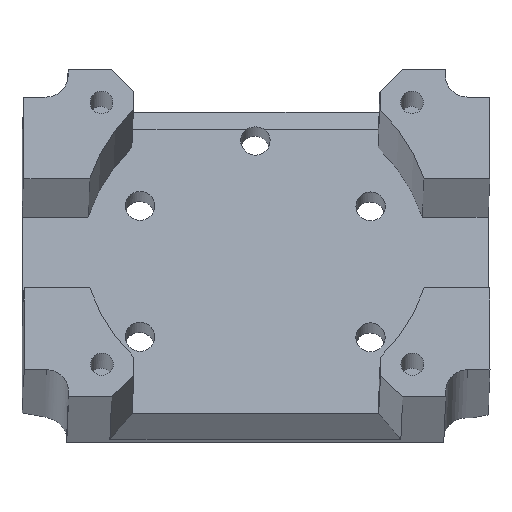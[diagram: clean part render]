
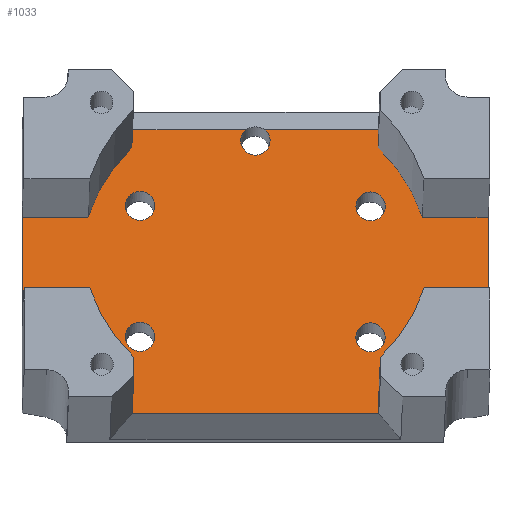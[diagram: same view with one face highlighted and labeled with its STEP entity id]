
A CAD part, front view. The second image highlights one B-rep face of the part: STEP entity #1033.
In plain terms, the highlighted planar face has unit normal (0.008, -0.983, 0.181).
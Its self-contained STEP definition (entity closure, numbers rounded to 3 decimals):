
#32=FACE_BOUND('',#148,.T.);
#33=FACE_BOUND('',#149,.T.);
#34=FACE_BOUND('',#150,.T.);
#35=FACE_BOUND('',#151,.T.);
#45=CIRCLE('',#1106,31.776);
#46=CIRCLE('',#1107,31.776);
#47=CIRCLE('',#1108,2.65);
#48=CIRCLE('',#1109,2.65);
#49=CIRCLE('',#1110,31.776);
#50=CIRCLE('',#1111,31.776);
#51=CIRCLE('',#1112,2.65);
#52=CIRCLE('',#1113,2.65);
#53=CIRCLE('',#1114,2.65);
#54=CIRCLE('',#1115,2.65);
#90=FACE_OUTER_BOUND('',#147,.T.);
#147=EDGE_LOOP('',(#704,#705,#706,#707,#708,#709,#710,#711,#712,#713,#714,
#715,#716,#717,#718,#719,#720,#721,#722));
#148=EDGE_LOOP('',(#723));
#149=EDGE_LOOP('',(#724));
#150=EDGE_LOOP('',(#725));
#151=EDGE_LOOP('',(#726));
#217=LINE('',#1519,#327);
#225=LINE('',#1539,#335);
#229=LINE('',#1546,#339);
#230=LINE('',#1549,#340);
#231=LINE('',#1553,#341);
#232=LINE('',#1555,#342);
#233=LINE('',#1557,#343);
#234=LINE('',#1560,#344);
#235=LINE('',#1565,#345);
#236=LINE('',#1569,#346);
#237=LINE('',#1571,#347);
#238=LINE('',#1573,#348);
#239=LINE('',#1576,#349);
#327=VECTOR('',#1207,10.);
#335=VECTOR('',#1221,10.);
#339=VECTOR('',#1225,10.);
#340=VECTOR('',#1228,10.);
#341=VECTOR('',#1231,10.);
#342=VECTOR('',#1232,10.);
#343=VECTOR('',#1233,10.);
#344=VECTOR('',#1236,10.);
#345=VECTOR('',#1241,10.);
#346=VECTOR('',#1244,10.);
#347=VECTOR('',#1245,10.);
#348=VECTOR('',#1246,10.);
#349=VECTOR('',#1249,10.);
#434=VERTEX_POINT('',#1512);
#437=VERTEX_POINT('',#1517);
#444=VERTEX_POINT('',#1535);
#445=VERTEX_POINT('',#1536);
#446=VERTEX_POINT('',#1538);
#449=VERTEX_POINT('',#1544);
#450=VERTEX_POINT('',#1548);
#451=VERTEX_POINT('',#1550);
#452=VERTEX_POINT('',#1552);
#453=VERTEX_POINT('',#1554);
#454=VERTEX_POINT('',#1556);
#455=VERTEX_POINT('',#1558);
#456=VERTEX_POINT('',#1561);
#457=VERTEX_POINT('',#1564);
#458=VERTEX_POINT('',#1566);
#459=VERTEX_POINT('',#1568);
#460=VERTEX_POINT('',#1570);
#461=VERTEX_POINT('',#1572);
#462=VERTEX_POINT('',#1574);
#463=VERTEX_POINT('',#1577);
#464=VERTEX_POINT('',#1579);
#465=VERTEX_POINT('',#1581);
#466=VERTEX_POINT('',#1583);
#537=EDGE_CURVE('',#437,#434,#217,.T.);
#546=EDGE_CURVE('',#445,#446,#225,.T.);
#550=EDGE_CURVE('',#449,#444,#229,.T.);
#551=EDGE_CURVE('',#437,#450,#230,.T.);
#552=EDGE_CURVE('',#450,#451,#45,.T.);
#553=EDGE_CURVE('',#451,#452,#231,.T.);
#554=EDGE_CURVE('',#452,#453,#232,.T.);
#555=EDGE_CURVE('',#453,#454,#233,.T.);
#556=EDGE_CURVE('',#454,#455,#46,.T.);
#557=EDGE_CURVE('',#455,#446,#234,.T.);
#558=EDGE_CURVE('',#445,#456,#47,.T.);
#559=EDGE_CURVE('',#456,#444,#48,.T.);
#560=EDGE_CURVE('',#449,#457,#235,.T.);
#561=EDGE_CURVE('',#457,#458,#49,.T.);
#562=EDGE_CURVE('',#458,#459,#236,.T.);
#563=EDGE_CURVE('',#459,#460,#237,.T.);
#564=EDGE_CURVE('',#460,#461,#238,.T.);
#565=EDGE_CURVE('',#461,#462,#50,.T.);
#566=EDGE_CURVE('',#462,#434,#239,.T.);
#567=EDGE_CURVE('',#463,#463,#51,.T.);
#568=EDGE_CURVE('',#464,#464,#52,.T.);
#569=EDGE_CURVE('',#465,#465,#53,.T.);
#570=EDGE_CURVE('',#466,#466,#54,.T.);
#704=ORIENTED_EDGE('',*,*,#537,.F.);
#705=ORIENTED_EDGE('',*,*,#551,.T.);
#706=ORIENTED_EDGE('',*,*,#552,.T.);
#707=ORIENTED_EDGE('',*,*,#553,.T.);
#708=ORIENTED_EDGE('',*,*,#554,.T.);
#709=ORIENTED_EDGE('',*,*,#555,.T.);
#710=ORIENTED_EDGE('',*,*,#556,.T.);
#711=ORIENTED_EDGE('',*,*,#557,.T.);
#712=ORIENTED_EDGE('',*,*,#546,.F.);
#713=ORIENTED_EDGE('',*,*,#558,.T.);
#714=ORIENTED_EDGE('',*,*,#559,.T.);
#715=ORIENTED_EDGE('',*,*,#550,.F.);
#716=ORIENTED_EDGE('',*,*,#560,.T.);
#717=ORIENTED_EDGE('',*,*,#561,.T.);
#718=ORIENTED_EDGE('',*,*,#562,.T.);
#719=ORIENTED_EDGE('',*,*,#563,.T.);
#720=ORIENTED_EDGE('',*,*,#564,.T.);
#721=ORIENTED_EDGE('',*,*,#565,.T.);
#722=ORIENTED_EDGE('',*,*,#566,.T.);
#723=ORIENTED_EDGE('',*,*,#567,.T.);
#724=ORIENTED_EDGE('',*,*,#568,.T.);
#725=ORIENTED_EDGE('',*,*,#569,.T.);
#726=ORIENTED_EDGE('',*,*,#570,.T.);
#993=PLANE('',#1105);
#1033=ADVANCED_FACE('',(#90,#32,#33,#34,#35),#993,.T.);
#1105=AXIS2_PLACEMENT_3D('',#1547,#1226,#1227);
#1106=AXIS2_PLACEMENT_3D('',#1551,#1229,#1230);
#1107=AXIS2_PLACEMENT_3D('',#1559,#1234,#1235);
#1108=AXIS2_PLACEMENT_3D('',#1562,#1237,#1238);
#1109=AXIS2_PLACEMENT_3D('',#1563,#1239,#1240);
#1110=AXIS2_PLACEMENT_3D('',#1567,#1242,#1243);
#1111=AXIS2_PLACEMENT_3D('',#1575,#1247,#1248);
#1112=AXIS2_PLACEMENT_3D('',#1578,#1250,#1251);
#1113=AXIS2_PLACEMENT_3D('',#1580,#1252,#1253);
#1114=AXIS2_PLACEMENT_3D('',#1582,#1254,#1255);
#1115=AXIS2_PLACEMENT_3D('',#1584,#1256,#1257);
#1207=DIRECTION('',(-1.,-0.008,0.));
#1221=DIRECTION('',(1.,0.008,0.));
#1225=DIRECTION('',(1.,0.008,0.));
#1226=DIRECTION('center_axis',(0.008,-0.983,0.181));
#1227=DIRECTION('ref_axis',(1.,0.008,0.));
#1228=DIRECTION('',(-0.001,0.181,0.983));
#1229=DIRECTION('center_axis',(0.008,-0.983,0.181));
#1230=DIRECTION('ref_axis',(1.,0.008,0.));
#1231=DIRECTION('',(1.,0.008,0.));
#1232=DIRECTION('',(-0.001,0.181,0.983));
#1233=DIRECTION('',(-1.,-0.008,0.));
#1234=DIRECTION('center_axis',(0.008,-0.983,0.181));
#1235=DIRECTION('ref_axis',(1.,0.008,0.));
#1236=DIRECTION('',(-0.001,0.181,0.983));
#1237=DIRECTION('center_axis',(-0.008,0.983,-0.181));
#1238=DIRECTION('ref_axis',(1.,0.008,0.));
#1239=DIRECTION('center_axis',(-0.008,0.983,-0.181));
#1240=DIRECTION('ref_axis',(1.,0.008,0.));
#1241=DIRECTION('',(0.001,-0.181,-0.983));
#1242=DIRECTION('center_axis',(0.008,-0.983,0.181));
#1243=DIRECTION('ref_axis',(1.,0.008,0.));
#1244=DIRECTION('',(-1.,-0.008,0.));
#1245=DIRECTION('',(0.001,-0.181,-0.983));
#1246=DIRECTION('',(1.,0.008,0.));
#1247=DIRECTION('center_axis',(0.008,-0.983,0.181));
#1248=DIRECTION('ref_axis',(1.,0.008,0.));
#1249=DIRECTION('',(0.001,-0.181,-0.983));
#1250=DIRECTION('center_axis',(-0.008,0.983,-0.181));
#1251=DIRECTION('ref_axis',(1.,0.008,0.));
#1252=DIRECTION('center_axis',(-0.008,0.983,-0.181));
#1253=DIRECTION('ref_axis',(1.,0.008,0.));
#1254=DIRECTION('center_axis',(-0.008,0.983,-0.181));
#1255=DIRECTION('ref_axis',(1.,0.008,0.));
#1256=DIRECTION('center_axis',(-0.008,0.983,-0.181));
#1257=DIRECTION('ref_axis',(1.,0.008,0.));
#1512=CARTESIAN_POINT('',(7.252,-296.976,453.478));
#1517=CARTESIAN_POINT('',(51.726,-296.631,453.478));
#1519=CARTESIAN_POINT('',(12.49,-296.935,453.478));
#1535=CARTESIAN_POINT('',(27.732,-287.38,504.615));
#1536=CARTESIAN_POINT('',(31.209,-287.353,504.615));
#1538=CARTESIAN_POINT('',(51.653,-287.194,504.615));
#1539=CARTESIAN_POINT('',(46.415,-287.235,504.615));
#1544=CARTESIAN_POINT('',(7.179,-287.539,504.615));
#1546=CARTESIAN_POINT('',(46.415,-287.235,504.615));
#1547=CARTESIAN_POINT('Origin',(29.452,-292.085,479.047));
#1548=CARTESIAN_POINT('',(51.721,-296.032,456.725));
#1549=CARTESIAN_POINT('',(51.705,-293.972,467.886));
#1550=CARTESIAN_POINT('',(59.627,-293.666,469.213));
#1551=CARTESIAN_POINT('Origin',(29.452,-292.085,479.047));
#1552=CARTESIAN_POINT('',(71.465,-293.574,469.213));
#1553=CARTESIAN_POINT('',(50.466,-293.737,469.213));
#1554=CARTESIAN_POINT('',(71.437,-289.944,488.881));
#1555=CARTESIAN_POINT('',(71.486,-296.296,454.462));
#1556=CARTESIAN_POINT('',(59.599,-290.036,488.881));
#1557=CARTESIAN_POINT('',(44.519,-290.153,488.881));
#1558=CARTESIAN_POINT('',(51.657,-287.793,501.368));
#1559=CARTESIAN_POINT('Origin',(29.452,-292.085,479.047));
#1560=CARTESIAN_POINT('',(51.668,-289.19,493.798));
#1561=CARTESIAN_POINT('',(26.823,-287.75,502.648));
#1562=CARTESIAN_POINT('Origin',(29.473,-287.729,502.648));
#1563=CARTESIAN_POINT('Origin',(29.473,-287.729,502.648));
#1564=CARTESIAN_POINT('',(7.183,-288.138,501.368));
#1565=CARTESIAN_POINT('',(7.199,-290.198,490.207));
#1566=CARTESIAN_POINT('',(-0.723,-290.504,488.881));
#1567=CARTESIAN_POINT('Origin',(29.452,-292.085,479.047));
#1568=CARTESIAN_POINT('',(-12.56,-290.596,488.881));
#1569=CARTESIAN_POINT('',(8.439,-290.433,488.881));
#1570=CARTESIAN_POINT('',(-12.532,-294.226,469.213));
#1571=CARTESIAN_POINT('',(-12.511,-296.948,454.462));
#1572=CARTESIAN_POINT('',(-0.694,-294.134,469.213));
#1573=CARTESIAN_POINT('',(14.386,-294.017,469.213));
#1574=CARTESIAN_POINT('',(7.247,-296.377,456.725));
#1575=CARTESIAN_POINT('Origin',(29.452,-292.085,479.047));
#1576=CARTESIAN_POINT('',(7.236,-294.98,464.296));
#1577=CARTESIAN_POINT('',(47.597,-289.775,490.801));
#1578=CARTESIAN_POINT('Origin',(50.247,-289.754,490.801));
#1579=CARTESIAN_POINT('',(6.008,-294.436,467.292));
#1580=CARTESIAN_POINT('Origin',(8.658,-294.416,467.292));
#1581=CARTESIAN_POINT('',(6.029,-290.081,490.894));
#1582=CARTESIAN_POINT('Origin',(8.679,-290.06,490.894));
#1583=CARTESIAN_POINT('',(47.576,-294.131,467.2));
#1584=CARTESIAN_POINT('Origin',(50.226,-294.11,467.2));
